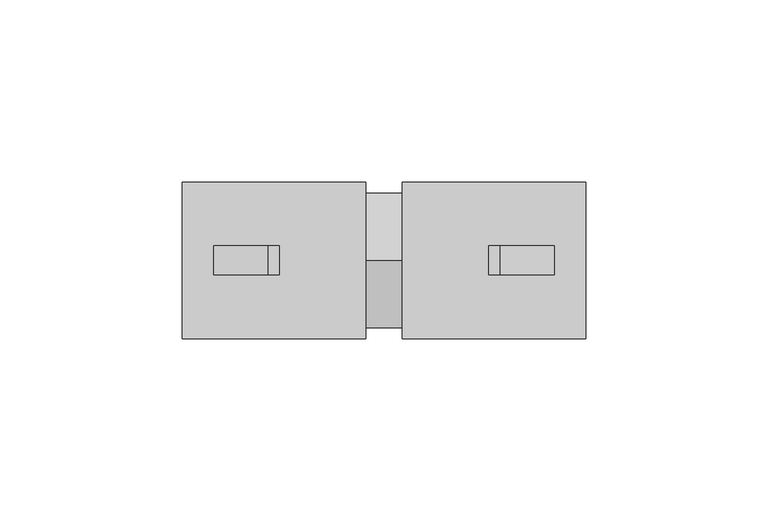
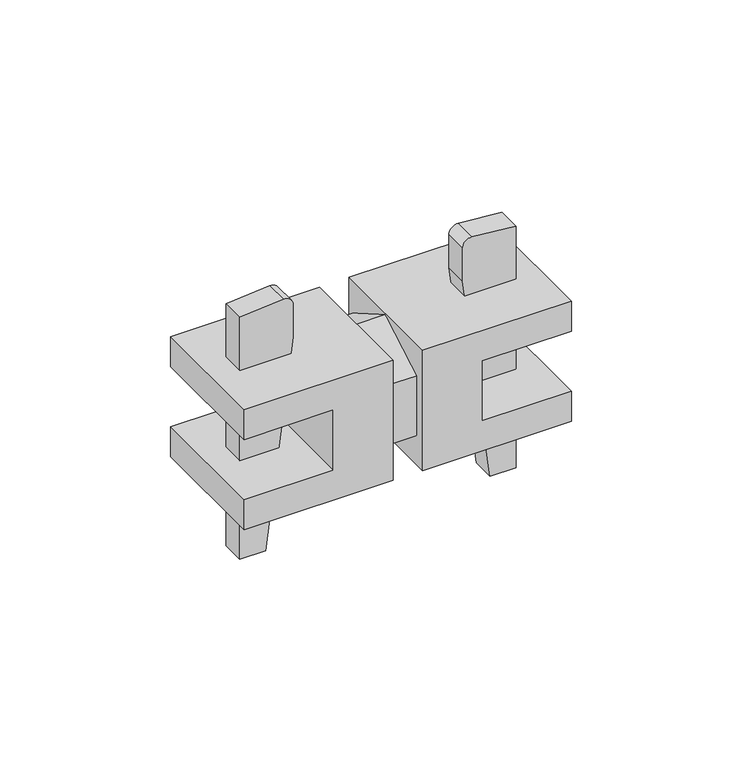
"""IFC4 building model written with IfcOpenShell, lengths in millimetres: proxy geometry, AK_アルバトロスＡＫつなぎ材_軽 : AK_アルバトロスＡＫつなぎ材_軽."""

from ifc_helpers import new_model, si_unit, point, frame, frame_2d, origin, place, context, project, spatial, polyline, circle_curve, trimmed, segment, composite_curve, outline, extrude, source, transform, mapped, element, save


def generic_models_e073ca39(model_context):
    return source(origin(), model_context, "Body", "SweptSolid", [
        extrude(outline(polyline([(-10.75, 131.9408052), (-10.75, 101.7000052), (10.75, 101.7000052), (10.75, 131.9408052), (21.5, 131.9408052), (21.5, 81.5000052), (-21.5, 81.5000052), (-21.5, 131.9408052), (-10.75, 131.9408052)])), frame((0.0, -21.5, 0.0), z_axis=(0.0, 1.0, 0.0), x_axis=(0.0, 0.0, 1.0)), (0.0, 0.0, 1.0), 43.0),
        extrude(outline(composite_curve([segment(polyline([(39.0692, 105.2000052), (27.3200065, 105.2000052), (-45.68165, 114.4611804), (-45.68165, 123.2000052), (40.7682926, 123.2000052), (42.0590201, 108.4469376)]), True, "CONTINUOUS"), segment(trimmed(circle_curve(frame_2d((39.0692, 108.2000052)), 3.0), [point((42.0590201, 108.4469376))], [point((39.0692, 105.2000052))], False, "CARTESIAN"), True, "CONTINUOUS")], self_intersect=False)), frame((0.0, -4.0, 0.0), z_axis=(0.0, 1.0, 0.0), x_axis=(0.0, 0.0, 1.0)), (0.0, 0.0, 1.0), 8.0),
        extrude(outline(polyline([(-10.75, 21.0591948), (-21.5, 21.0591948), (-21.5, 71.4999948), (21.5, 71.4999948), (21.5, 21.0591948), (10.75, 21.0591948), (10.75, 51.2999948), (-10.75, 51.2999948), (-10.75, 21.0591948)])), frame((0.0, -21.5, 0.0), z_axis=(0.0, 1.0, 0.0), x_axis=(0.0, 0.0, 1.0)), (0.0, 0.0, 1.0), 43.0),
        extrude(outline(composite_curve([segment(trimmed(circle_curve(frame_2d((39.0692, 44.7999948)), 3.0), [point((39.0692, 47.7999948))], [point((42.0590201, 44.5530624))], False, "CARTESIAN"), True, "CONTINUOUS"), segment(polyline([(42.0590201, 44.5530624), (40.7682926, 29.7999948), (-45.68165, 29.7999948), (-45.68165, 38.5388196), (27.3200065, 47.7999948), (39.0692, 47.7999948)]), True, "CONTINUOUS")], self_intersect=False)), frame((0.0, -4.0, 0.0), z_axis=(0.0, 1.0, 0.0), x_axis=(0.0, 0.0, 1.0)), (0.0, 0.0, 1.0), 8.0),
        extrude(outline(polyline([(-18.4896424, 10.675), (0.0, 21.35), (18.4896424, 10.675), (18.4896424, -10.675), (0.0, -21.35), (-18.4896424, -10.675), (-18.4896424, 10.675)])), frame((71.4999948, 0.0, 0.0), z_axis=(1.0, 0.0, 0.0), x_axis=(0.0, 1.0, 0.0)), (0.0, 0.0, 1.0), 10.0000103),
    ])


if __name__ == "__main__":
    model = new_model("IFC4")
    model_context = context("Model", 3, world=origin())
    ifc_project = project(units=[si_unit("LENGTHUNIT", "METRE", prefix="MILLI")], contexts=[model_context])
    site = spatial("IfcSite", under=ifc_project)
    building = spatial("IfcBuilding", under=site)
    placement = place(None, origin())
    generic_models_shape = generic_models_e073ca39(model_context)
    element("IfcBuildingElementProxy", 1, Name="AK_アルバトロスＡＫつなぎ材_軽 : AK_アルバトロスＡＫつなぎ材_軽", ObjectType="AK_アルバトロスＡＫつなぎ材_軽 : AK_アルバトロスＡＫつなぎ材_軽", at=placement, inside=building, context=model_context, shape_type="MappedRepresentation", body=[
        mapped(generic_models_shape, transform((0.0, 0.0, 0.0), x_axis=(1.0, 0.0, 0.0), y_axis=(0.0, 1.0, 0.0), z_axis=(0.0, 0.0, 1.0))),
    ])
    save(model, "model.ifc")
